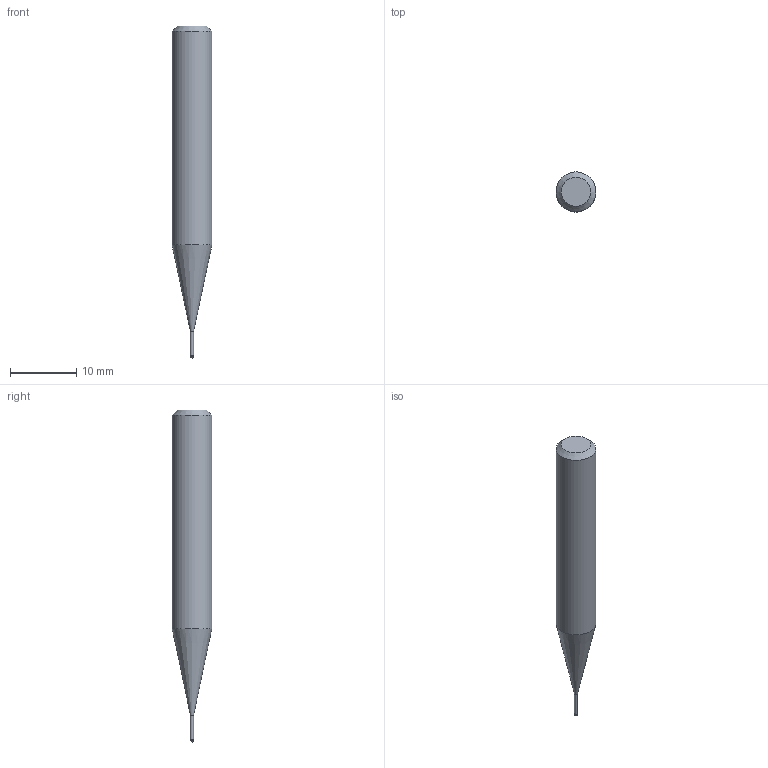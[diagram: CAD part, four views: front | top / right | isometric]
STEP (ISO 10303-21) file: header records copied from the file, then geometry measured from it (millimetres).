
FILE_DESCRIPTION((''),'2;1');
FILE_NAME('C:\Users\nsx150\AppData\Local\Temp\Mastercam 2021\3SYKECWX22\TEMP.step','2021-04-22T10:00:19',(''),(''),'STEP Write','Mastercam 2021 ... CNC Software, Inc.','');
FILE_SCHEMA(('AUTOMOTIVE_DESIGN'));
Length unit declared in the file: millimetre
Products named in the file (1): None
Bounding box: 6 x 6 x 50 mm (x, y, z)
Volume: 1060.3 mm3; surface area: 781.4 mm2
Topology: 2 solids, 2 shells, 9 faces, 14 edges, 8 vertices
Faces by surface type: plane 3, cylinder 3, cone 2, sphere 1
Full cylindrical faces by diameter (mm): 0.46 x1, 0.5 x1, 6 x1
Entity records: 211 total; most frequent: DIRECTION 36, CARTESIAN_POINT 25, AXIS2_PLACEMENT_3D 18, ORIENTED_EDGE 14, EDGE_LOOP 14, STYLED_ITEM 12, ADVANCED_FACE 9, FACE_BOUND 8
